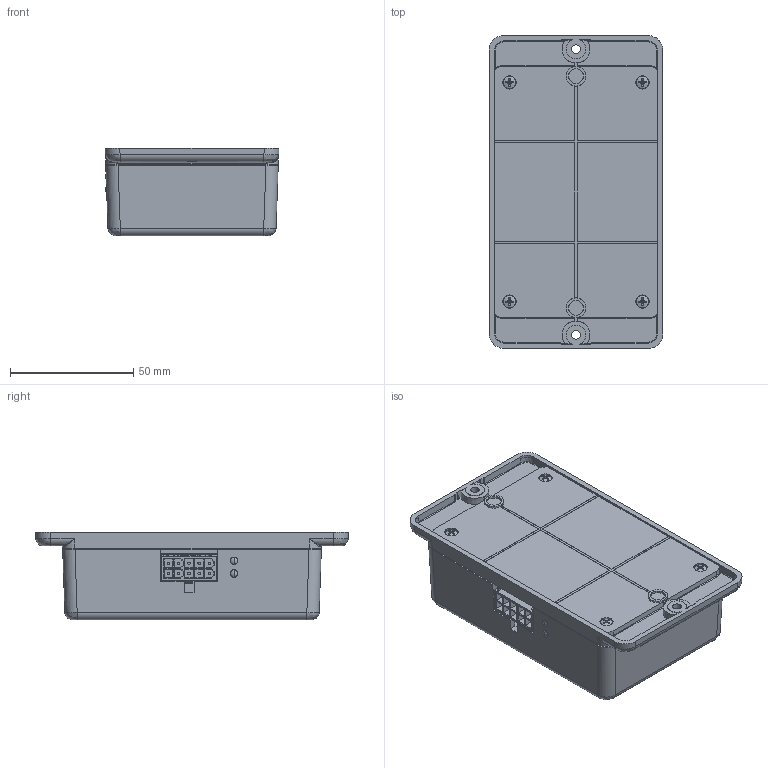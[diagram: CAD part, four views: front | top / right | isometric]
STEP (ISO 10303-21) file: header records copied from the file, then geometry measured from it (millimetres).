
FILE_DESCRIPTION((''),'2;1');
FILE_NAME('TWF7-4-11D_PRECHARGE_ASM','2023-11-17T10:26:21',('Uporabnik'),(''),'CREO PARAMETRIC BY PTC INC, 2023073','CREO PARAMETRIC BY PTC INC, 2023073','');
FILE_SCHEMA(('CONFIG_CONTROL_DESIGN'));
Products named in the file (265): _X2_30BD30EA30C330C9_X0_1_1_2; _X2_30BD30EA30C330C9_X0_1_1_1_AF1; _X2_30BD30EA30C330C9_X0_1_2_1; _X2_30BD30EA30C330C9_X0_1_3_1; _X2_30BD30EA30C330C9_X0_1_4_1; _X2_30BD30EA30C330C9_X0_1_5_1; _X2_30BD30EA30C330C9_X0_1_6_1; TWF7-11__X2_30D530E930F330B8__1_AF1_ASM; TWF7-X-11-01_1_AF0; JIS_B_1122_-_F-H___X2_6BB54ED_1; TWF7-4-11_1_AF0_ASM; BOARD_1_2_3_4_5_AF0; EXTRUDED-8156_1_AF0; 756557328_1_AF0_ASM; Q10_1_AF0_ASM; EXTRUDED-8156_1_AF1; 756557328_1_AF1_ASM; Q9_1_AF0_ASM; LFPAK56_1_AF0; Q7_1_AF0_ASM; A6S-3101-H_1_AF0; SW1_1_AF0_ASM; EXTRUDED-26175_1_AF0; 557071712_1_2_3_4_AF0_ASM; R43_1_2_AF0_ASM; EXTRUDED-26570_1; 557072096_1_2_3_4_ASM; R42_1_2_ASM; R41_1_2_ASM; EXTRUDED-26175_1_AF1; 557071712_1_2_3_4_AF1_ASM; R40_1_2_AF0_ASM; EXTRUDED-26175_1_AF2; 557071712_1_2_3_4_AF2_ASM; R39_1_2_AF0_ASM; EXTRUDED-26570_1_AF0; 557072096_1_2_3_4_AF0_ASM; R38_1_2_AF0_ASM; EXTRUDED-26175_1_AF3; 557071712_1_2_3_4_AF3_ASM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
Assembly tree (293 placements, depth 6):
  TWF7-4-11D_PRECHARGE_ASM
    TWF7-4-11_1_AF0_ASM
      TWF7-11__X2_30D530E930F330B8__1_AF1_ASM
        _X2_30BD30EA30C330C9_X0_1_1_2
        _X2_30BD30EA30C330C9_X0_1_1_1_AF1
        _X2_30BD30EA30C330C9_X0_1_2_1
        _X2_30BD30EA30C330C9_X0_1_3_1
        _X2_30BD30EA30C330C9_X0_1_4_1
        _X2_30BD30EA30C330C9_X0_1_5_1
        _X2_30BD30EA30C330C9_X0_1_6_1
      TWF7-X-11-01_1_AF0
      JIS_B_1122_-_F-H___X2_6BB54ED_1  x4
    ASM0005_AF0_ASM
      PCB_1_2_3_4_5_AF0_ASM
        BOARD_1_2_3_4_5_AF0
        Q10_1_AF0_ASM
          756557328_1_AF0_ASM
            EXTRUDED-8156_1_AF0
        Q9_1_AF0_ASM
          756557328_1_AF1_ASM
            EXTRUDED-8156_1_AF1
        Q7_1_AF0_ASM
          LFPAK56_1_AF0
        SW1_1_AF0_ASM
          A6S-3101-H_1_AF0
        R43_1_2_AF0_ASM
          557071712_1_2_3_4_AF0_ASM
            EXTRUDED-26175_1_AF0
        R42_1_2_ASM
          557072096_1_2_3_4_ASM
            EXTRUDED-26570_1
        R41_1_2_ASM
          557072096_1_2_3_4_ASM
            EXTRUDED-26570_1
        R40_1_2_AF0_ASM
          557071712_1_2_3_4_AF1_ASM
            EXTRUDED-26175_1_AF1
        R39_1_2_AF0_ASM
          557071712_1_2_3_4_AF2_ASM
            EXTRUDED-26175_1_AF2
        R38_1_2_AF0_ASM
          557072096_1_2_3_4_AF0_ASM
            EXTRUDED-26570_1_AF0
        R36_1_2_AF0_ASM
          557071712_1_2_3_4_AF3_ASM
            EXTRUDED-26175_1_AF3
        R35_1_2_AF0_ASM
          557072096_1_2_3_4_AF1_ASM
            EXTRUDED-26570_1_AF1
        R34_1_2_3_4_5_AF0_ASM
          557071712_1_2_3_4_AF4_ASM
            EXTRUDED-26175_1_AF4
        R33_1_2_3_4_5_AF0_ASM
          557072096_1_2_3_4_AF2_ASM
            EXTRUDED-26570_1_AF2
        R32_1_2_3_4_5_AF0_ASM
          557072096_1_2_3_4_AF3_ASM
            EXTRUDED-26570_1_AF3
        R31_1_2_3_4_5_AF0_ASM
          756557072_1_ASM
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Bounding box: 70.6 x 127 x 35.5 mm (x, y, z)
Volume: 81739.1 mm3; surface area: 82833.8 mm2
Topology: 125 solids, 153 shells, 4121 faces, 10767 edges, 7001 vertices
Faces by surface type: plane 2483, cylinder 943, torus 193, cone 168, bspline 168, extrusion 100, sphere 66
Entity records: 120032 total; most frequent: CARTESIAN_POINT 30987, DIRECTION 18009, ORIENTED_EDGE 17375, EDGE_CURVE 8707, VECTOR 6091, LINE 5991, AXIS2_PLACEMENT_3D 5959, VERTEX_POINT 5658
